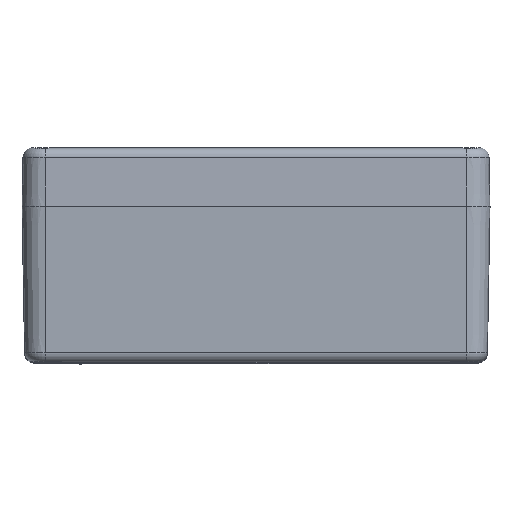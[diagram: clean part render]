
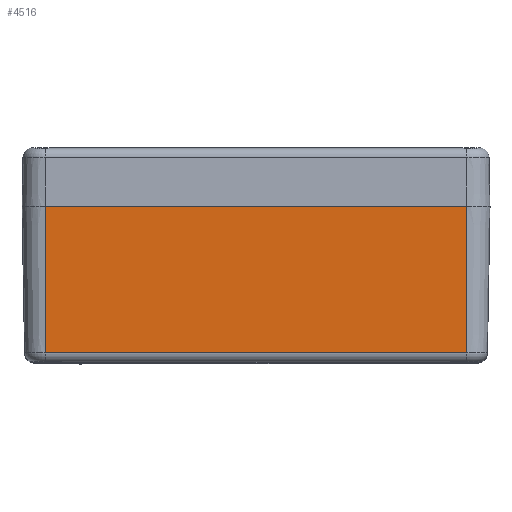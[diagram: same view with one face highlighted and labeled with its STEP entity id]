
A CAD part, top view. The second image highlights one B-rep face of the part: STEP entity #4516.
In plain terms, the highlighted planar face has unit normal (0, -0.018, 1).
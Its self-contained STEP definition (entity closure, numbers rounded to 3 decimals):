
#397 = ORIENTED_EDGE ( 'NONE', *, *, #11523, .T. ) ;
#1087 = CARTESIAN_POINT ( 'NONE',  ( 54., -37.544, 60.345 ) ) ;
#1654 = AXIS2_PLACEMENT_3D ( 'NONE', #27340, #8154, #23217 ) ;
#2172 = VERTEX_POINT ( 'NONE', #24114 ) ;
#3090 = CARTESIAN_POINT ( 'NONE',  ( -54., 0., 61. ) ) ;
#4516 = ADVANCED_FACE ( 'NONE', ( #20900 ), #6013, .T. ) ;
#5213 = LINE ( 'NONE', #22634, #10303 ) ;
#6013 = PLANE ( 'NONE',  #1654 ) ;
#6168 = ORIENTED_EDGE ( 'NONE', *, *, #11616, .T. ) ;
#6574 = VECTOR ( 'NONE', #26888, 1000. ) ;
#7079 = ORIENTED_EDGE ( 'NONE', *, *, #8046, .F. ) ;
#8046 = EDGE_CURVE ( 'NONE', #16381, #11753, #17308, .T. ) ;
#8154 = DIRECTION ( 'NONE',  ( 0., -0.017, 1. ) ) ;
#9818 = DIRECTION ( 'NONE',  ( 1., 0., 0. ) ) ;
#10247 = VERTEX_POINT ( 'NONE', #22994 ) ;
#10303 = VECTOR ( 'NONE', #11884, 1000. ) ;
#11394 = CARTESIAN_POINT ( 'NONE',  ( 54., 0., 61. ) ) ;
#11523 = EDGE_CURVE ( 'NONE', #2172, #11753, #23738, .T. ) ;
#11572 = EDGE_CURVE ( 'NONE', #10247, #16381, #5213, .T. ) ;
#11586 = VECTOR ( 'NONE', #15993, 1000. ) ;
#11616 = EDGE_CURVE ( 'NONE', #10247, #2172, #15950, .T. ) ;
#11753 = VERTEX_POINT ( 'NONE', #11394 ) ;
#11832 = CARTESIAN_POINT ( 'NONE',  ( -54., 0., 61. ) ) ;
#11884 = DIRECTION ( 'NONE',  ( 0., 1., 0.017 ) ) ;
#15901 = EDGE_LOOP ( 'NONE', ( #21980, #6168, #397, #7079 ) ) ;
#15950 = LINE ( 'NONE', #1087, #26756 ) ;
#15993 = DIRECTION ( 'NONE',  ( 0., 1., 0.017 ) ) ;
#16381 = VERTEX_POINT ( 'NONE', #3090 ) ;
#17308 = LINE ( 'NONE', #11832, #6574 ) ;
#20265 = CARTESIAN_POINT ( 'NONE',  ( 54., 0., 61. ) ) ;
#20900 = FACE_OUTER_BOUND ( 'NONE', #15901, .T. ) ;
#21980 = ORIENTED_EDGE ( 'NONE', *, *, #11572, .F. ) ;
#22634 = CARTESIAN_POINT ( 'NONE',  ( -54., 0., 61. ) ) ;
#22994 = CARTESIAN_POINT ( 'NONE',  ( -54., -37.544, 60.345 ) ) ;
#23217 = DIRECTION ( 'NONE',  ( 0., -1., -0.017 ) ) ;
#23738 = LINE ( 'NONE', #20265, #11586 ) ;
#24114 = CARTESIAN_POINT ( 'NONE',  ( 54., -37.544, 60.345 ) ) ;
#26756 = VECTOR ( 'NONE', #9818, 1000. ) ;
#26888 = DIRECTION ( 'NONE',  ( 1., 0., 0. ) ) ;
#27340 = CARTESIAN_POINT ( 'NONE',  ( -54., 0., 61. ) ) ;
